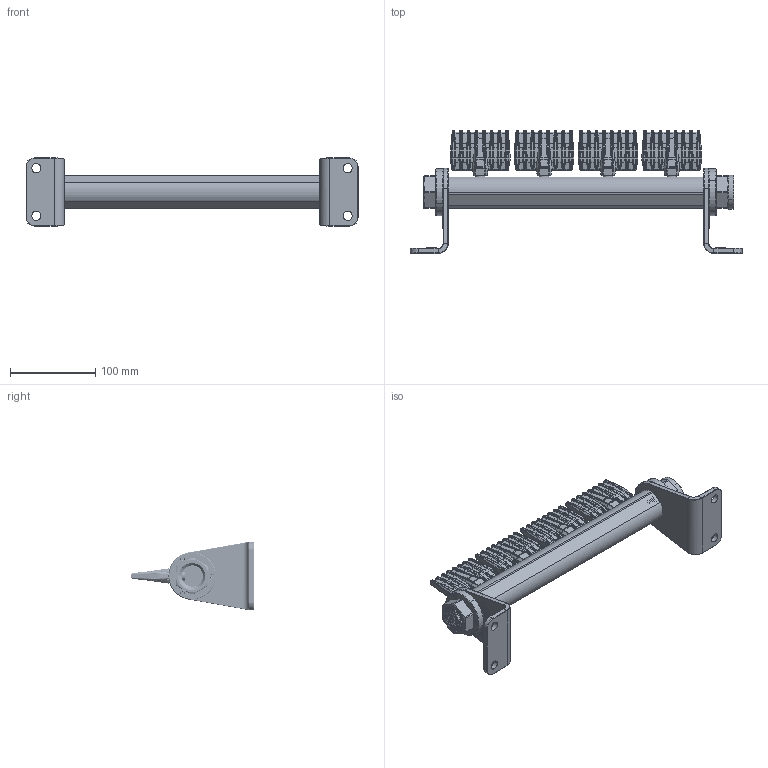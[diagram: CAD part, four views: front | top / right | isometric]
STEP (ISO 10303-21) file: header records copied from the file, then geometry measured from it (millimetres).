
FILE_DESCRIPTION (( 'STEP AP214' ), '1' );
FILE_NAME ('374W-S.STEP', '2024-10-15T13:17:10', ( '' ), ( '' ), 'SwSTEP 2.0', 'SolidWorks 2021', '' );
FILE_SCHEMA (( 'AUTOMOTIVE_DESIGN' ));
Length unit declared in the file: millimetre
Products named in the file (8): 70060_Profil 374 W-S; Silvent M1E; 374W-S; 9003W-S; Silvent MB1; 90000000572_Skruv_Insex_M5x8_DIN914_A2; Plugg 1 SS; Nippel EA1
Assembly tree (13 placements, depth 3):
  374W-S
    70060_Profil 374 W-S
    9003W-S  x4
    Silvent M1E  x2
      Silvent MB1
      Nippel EA1
      90000000572_Skruv_Insex_M5x8_DIN914_A2
    Plugg 1 SS
Bounding box: 390 x 144.5 x 80 mm (x, y, z)
Volume: 399695.1 mm3; surface area: 176467.2 mm2
Topology: 16 solids, 16 shells, 5956 faces, 13719 edges, 7732 vertices
Faces by surface type: cylinder 2250, bspline 2060, plane 1412, sphere 128, cone 82, torus 24
Entity records: 79096 total; most frequent: CARTESIAN_POINT 30906, ORIENTED_EDGE 7908, DIRECTION 6210, EDGE_CURVE 3954, VERTEX_POINT 2293, AXIS2_PLACEMENT_3D 2277, EDGE_LOOP 1771, ADVANCED_FACE 1710
